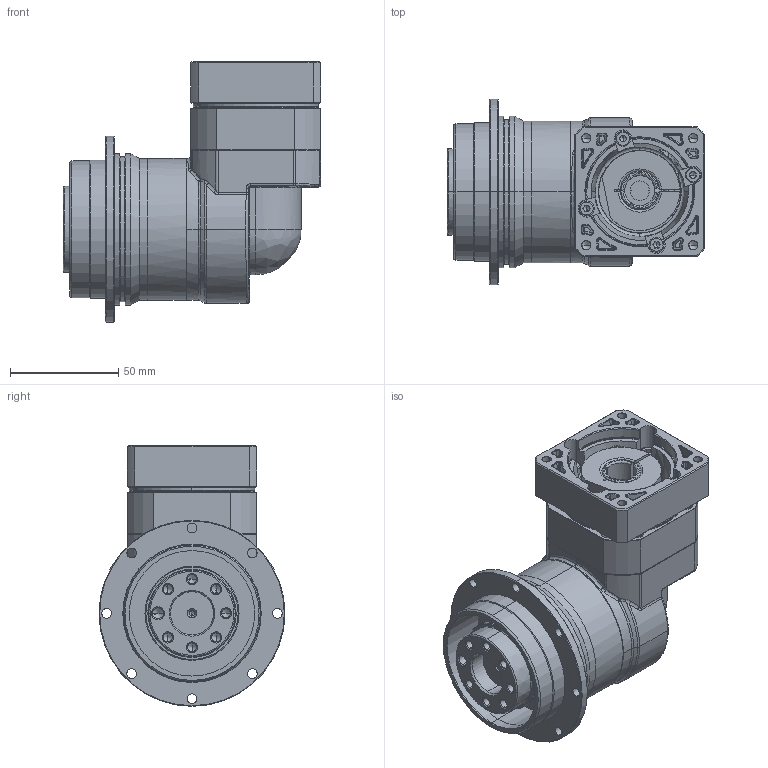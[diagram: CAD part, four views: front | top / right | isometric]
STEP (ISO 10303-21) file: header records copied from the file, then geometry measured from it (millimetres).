
FILE_DESCRIPTION (( 'STEP AP214' ), '1' );
FILE_NAME ('EVT064-L1-P1 14-50-70-M5-33.STEP', '2025-02-17T03:47:38', ( '微软用户' ), ( '微软中国' ), 'SwSTEP 2.0', 'SolidWorks 2021', '' );
FILE_SCHEMA (( 'AUTOMOTIVE_DESIGN' ));
Length unit declared in the file: millimetre
Products named in the file (3): EVT064-L1-P1 14-50-70-M5-33; EVT064D-L1-14-50-70-M5-33; 3.EVT064F眻褒眊极_step_stp_stp.stp
Assembly tree (2 placements, depth 2):
  EVT064-L1-P1 14-50-70-M5-33
    EVT064D-L1-14-50-70-M5-33
    3.EVT064F眻褒眊极_step_stp_stp.stp
Bounding box: 119 x 86 x 120.5 mm (x, y, z)
Volume: 92080.2 mm3; surface area: 117394.5 mm2
Topology: 1 solids, 25 shells, 1417 faces, 3482 edges, 2117 vertices
Faces by surface type: cylinder 449, plane 347, bspline 301, cone 282, torus 38
Entity records: 62169 total; most frequent: CARTESIAN_POINT 31073, ORIENTED_EDGE 6744, DIRECTION 5939, EDGE_CURVE 3392, AXIS2_PLACEMENT_3D 2395, VERTEX_POINT 2117, EDGE_LOOP 1582, FACE_OUTER_BOUND 1417
